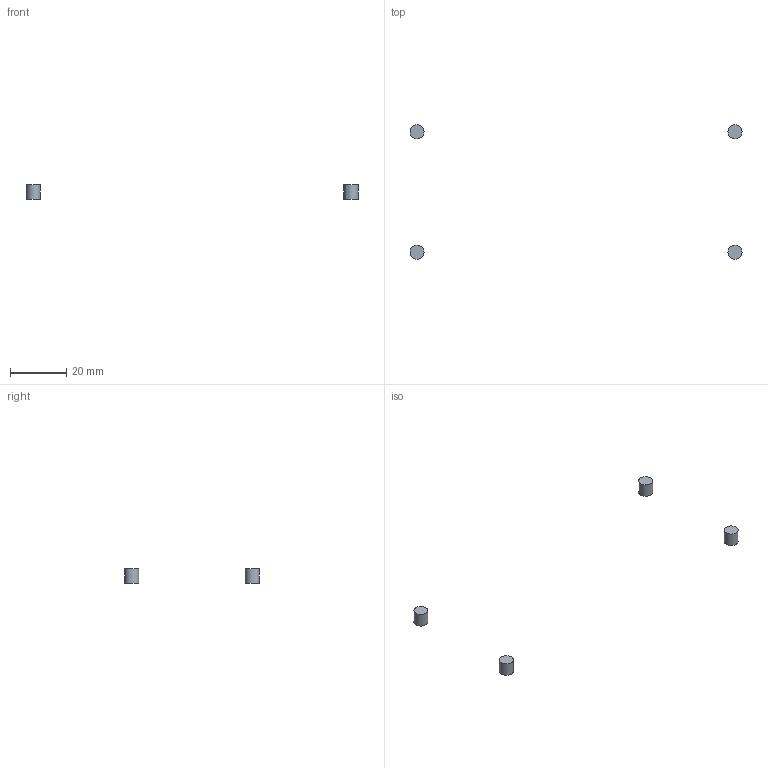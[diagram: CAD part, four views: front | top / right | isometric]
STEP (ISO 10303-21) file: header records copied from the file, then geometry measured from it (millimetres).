
FILE_DESCRIPTION(('Open CASCADE Model'),'2;1');
FILE_NAME('Open CASCADE Shape Model','2026-09-29T12:48:02',('Author'),( 'Open CASCADE'),'Open CASCADE STEP processor 7.9','Open CASCADE 7.9' ,'Unknown');
FILE_SCHEMA(('AUTOMOTIVE_DESIGN { 1 0 10303 214 1 1 1 1 }'));
Length unit declared in the file: millimetre
Products named in the file (5): Open CASCADE STEP translator 7.9 11; Open CASCADE STEP translator 7.9 11.1; Open CASCADE STEP translator 7.9 11.2; Open CASCADE STEP translator 7.9 11.3; Open CASCADE STEP translator 7.9 11.4
Assembly tree (4 placements, depth 2):
  Open CASCADE STEP translator 7.9 11
    Open CASCADE STEP translator 7.9 11.1
    Open CASCADE STEP translator 7.9 11.2
    Open CASCADE STEP translator 7.9 11.3
    Open CASCADE STEP translator 7.9 11.4
Bounding box: 118 x 47.9 x 5 mm (x, y, z)
Volume: 392.7 mm3; surface area: 471.2 mm2
Topology: 4 solids, 4 shells, 12 faces, 12 edges, 8 vertices
Faces by surface type: plane 8, cylinder 4
Full cylindrical faces by diameter (mm): 5 x4
Entity records: 456 total; most frequent: DIRECTION 78, CARTESIAN_POINT 61, AXIS2_PLACEMENT_3D 25, ORIENTED_EDGE 24, PCURVE 24, DEFINITIONAL_REPRESENTATION 24, LINE 20, VECTOR 20
